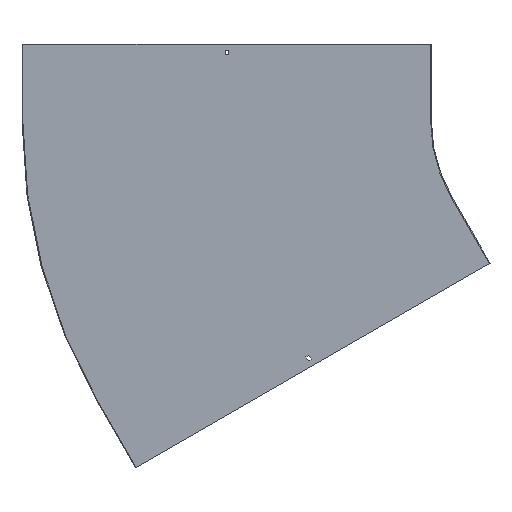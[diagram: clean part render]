
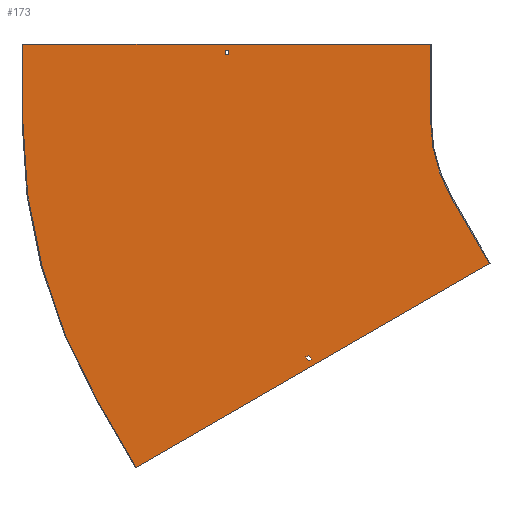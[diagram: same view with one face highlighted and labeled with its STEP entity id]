
A CAD part, front view. The second image highlights one B-rep face of the part: STEP entity #173.
In plain terms, the highlighted planar face has unit normal (0, -1, 0).
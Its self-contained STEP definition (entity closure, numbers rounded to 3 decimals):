
#5 = ORIENTED_EDGE ( 'NONE', *, *, #177, .F. ) ;
#17 = EDGE_CURVE ( 'NONE', #557, #135, #236, .T. ) ;
#25 = DIRECTION ( 'NONE',  ( -0.5, 0., 0.866 ) ) ;
#28 = VERTEX_POINT ( 'NONE', #859 ) ;
#36 = EDGE_LOOP ( 'NONE', ( #246, #95, #852, #781 ) ) ;
#43 = VERTEX_POINT ( 'NONE', #644 ) ;
#49 = CARTESIAN_POINT ( 'NONE',  ( 0., -1.5, 138. ) ) ;
#50 = VERTEX_POINT ( 'NONE', #392 ) ;
#58 = DIRECTION ( 'NONE',  ( 0., 0., 1. ) ) ;
#63 = CARTESIAN_POINT ( 'NONE',  ( -1100., -1.5, 0. ) ) ;
#71 = CARTESIAN_POINT ( 'NONE',  ( -300., -1.5, 150. ) ) ;
#77 = VECTOR ( 'NONE', #142, 1000. ) ;
#82 = EDGE_CURVE ( 'NONE', #135, #146, #525, .T. ) ;
#92 = CARTESIAN_POINT ( 'NONE',  ( -603.403, -1.5, -348.375 ) ) ;
#95 = ORIENTED_EDGE ( 'NONE', *, *, #747, .F. ) ;
#105 = CARTESIAN_POINT ( 'NONE',  ( -1101.5, -1.5, 150. ) ) ;
#114 = VECTOR ( 'NONE', #808, 1000. ) ;
#115 = DIRECTION ( 'NONE',  ( 1., 0., 0. ) ) ;
#122 = CARTESIAN_POINT ( 'NONE',  ( -259.808, -1.5, -150. ) ) ;
#125 = EDGE_CURVE ( 'NONE', #495, #28, #730, .T. ) ;
#129 = CIRCLE ( 'NONE', #673, 1100. ) ;
#132 = CARTESIAN_POINT ( 'NONE',  ( -696.75, -1.5, 129. ) ) ;
#134 = DIRECTION ( 'NONE',  ( 0.5, 0., -0.866 ) ) ;
#135 = VERTEX_POINT ( 'NONE', #454 ) ;
#138 = ORIENTED_EDGE ( 'NONE', *, *, #489, .F. ) ;
#140 = VECTOR ( 'NONE', #248, 1000. ) ;
#142 = DIRECTION ( 'NONE',  ( 0., 0., -1. ) ) ;
#146 = VERTEX_POINT ( 'NONE', #692 ) ;
#173 = ADVANCED_FACE ( 'NONE', ( #443, #559, #769 ), #828, .T. ) ;
#175 = DIRECTION ( 'NONE',  ( 0., 0., -1. ) ) ;
#176 = CARTESIAN_POINT ( 'NONE',  ( -538.903, -1.5, -460.092 ) ) ;
#177 = EDGE_CURVE ( 'NONE', #534, #822, #754, .T. ) ;
#181 = EDGE_CURVE ( 'NONE', #539, #487, #620, .T. ) ;
#185 = DIRECTION ( 'NONE',  ( -1., 0., 0. ) ) ;
#186 = CARTESIAN_POINT ( 'NONE',  ( -183.509, -1.5, -279.154 ) ) ;
#187 = CARTESIAN_POINT ( 'NONE',  ( -544.532, -1.5, -463.342 ) ) ;
#192 = LINE ( 'NONE', #447, #243 ) ;
#208 = LINE ( 'NONE', #71, #860 ) ;
#234 = ORIENTED_EDGE ( 'NONE', *, *, #276, .T. ) ;
#236 = LINE ( 'NONE', #843, #619 ) ;
#243 = VECTOR ( 'NONE', #519, 1000. ) ;
#246 = ORIENTED_EDGE ( 'NONE', *, *, #181, .F. ) ;
#248 = DIRECTION ( 'NONE',  ( -0.5, 0., 0.866 ) ) ;
#274 = ORIENTED_EDGE ( 'NONE', *, *, #548, .F. ) ;
#276 = EDGE_CURVE ( 'NONE', #491, #733, #807, .T. ) ;
#295 = DIRECTION ( 'NONE',  ( 0., -1., 0. ) ) ;
#307 = AXIS2_PLACEMENT_3D ( 'NONE', #801, #862, #661 ) ;
#310 = EDGE_CURVE ( 'NONE', #43, #744, #774, .T. ) ;
#311 = LINE ( 'NONE', #836, #140 ) ;
#342 = VECTOR ( 'NONE', #719, 1000. ) ;
#344 = DIRECTION ( 'NONE',  ( 0., 0., -1. ) ) ;
#352 = VERTEX_POINT ( 'NONE', #408 ) ;
#356 = VECTOR ( 'NONE', #429, 1000. ) ;
#377 = LINE ( 'NONE', #654, #342 ) ;
#387 = VECTOR ( 'NONE', #115, 1000. ) ;
#392 = CARTESIAN_POINT ( 'NONE',  ( -952.628, -1.5, -550. ) ) ;
#394 = ORIENTED_EDGE ( 'NONE', *, *, #672, .F. ) ;
#398 = LINE ( 'NONE', #546, #114 ) ;
#408 = CARTESIAN_POINT ( 'NONE',  ( -300., -1.5, 0. ) ) ;
#429 = DIRECTION ( 'NONE',  ( 1., 0., 0. ) ) ;
#439 = CARTESIAN_POINT ( 'NONE',  ( 0., -1.5, 0. ) ) ;
#443 = FACE_BOUND ( 'NONE', #36, .T. ) ;
#447 = CARTESIAN_POINT ( 'NONE',  ( 64.5, -1.5, -111.717 ) ) ;
#449 = CARTESIAN_POINT ( 'NONE',  ( -609.032, -1.5, -351.625 ) ) ;
#451 = LINE ( 'NONE', #714, #675 ) ;
#454 = CARTESIAN_POINT ( 'NONE',  ( -184.808, -1.5, -279.904 ) ) ;
#481 = EDGE_CURVE ( 'NONE', #146, #50, #311, .T. ) ;
#484 = EDGE_LOOP ( 'NONE', ( #5, #138, #274, #704, #746, #592, #394, #617 ) ) ;
#487 = VERTEX_POINT ( 'NONE', #176 ) ;
#488 = VERTEX_POINT ( 'NONE', #63 ) ;
#489 = EDGE_CURVE ( 'NONE', #488, #534, #377, .T. ) ;
#491 = VERTEX_POINT ( 'NONE', #132 ) ;
#495 = VERTEX_POINT ( 'NONE', #187 ) ;
#510 = CARTESIAN_POINT ( 'NONE',  ( -534.403, -1.5, -467.887 ) ) ;
#517 = CARTESIAN_POINT ( 'NONE',  ( -1100., -1.5, 150. ) ) ;
#519 = DIRECTION ( 'NONE',  ( -0.866, 0., -0.5 ) ) ;
#521 = CARTESIAN_POINT ( 'NONE',  ( 0., -1.5, 129. ) ) ;
#525 = LINE ( 'NONE', #186, #594 ) ;
#534 = VERTEX_POINT ( 'NONE', #517 ) ;
#539 = VERTEX_POINT ( 'NONE', #510 ) ;
#543 = LINE ( 'NONE', #738, #77 ) ;
#545 = EDGE_CURVE ( 'NONE', #487, #495, #192, .T. ) ;
#546 = CARTESIAN_POINT ( 'NONE',  ( 69., -1.5, -119.512 ) ) ;
#548 = EDGE_CURVE ( 'NONE', #50, #488, #129, .T. ) ;
#552 = ORIENTED_EDGE ( 'NONE', *, *, #310, .T. ) ;
#557 = VERTEX_POINT ( 'NONE', #122 ) ;
#559 = FACE_OUTER_BOUND ( 'NONE', #484, .T. ) ;
#562 = CARTESIAN_POINT ( 'NONE',  ( -300., -1.5, 150. ) ) ;
#592 = ORIENTED_EDGE ( 'NONE', *, *, #17, .F. ) ;
#594 = VECTOR ( 'NONE', #790, 1000. ) ;
#608 = EDGE_CURVE ( 'NONE', #733, #43, #451, .T. ) ;
#615 = DIRECTION ( 'NONE',  ( 0.5, 0., -0.866 ) ) ;
#617 = ORIENTED_EDGE ( 'NONE', *, *, #703, .F. ) ;
#619 = VECTOR ( 'NONE', #615, 1000. ) ;
#620 = LINE ( 'NONE', #92, #691 ) ;
#644 = CARTESIAN_POINT ( 'NONE',  ( -703.25, -1.5, 138. ) ) ;
#651 = CARTESIAN_POINT ( 'NONE',  ( 0., -1.5, 0. ) ) ;
#654 = CARTESIAN_POINT ( 'NONE',  ( -1100., -1.5, 0. ) ) ;
#661 = DIRECTION ( 'NONE',  ( 0., 0., -1. ) ) ;
#672 = EDGE_CURVE ( 'NONE', #352, #557, #833, .T. ) ;
#673 = AXIS2_PLACEMENT_3D ( 'NONE', #651, #849, #708 ) ;
#675 = VECTOR ( 'NONE', #58, 1000. ) ;
#689 = EDGE_LOOP ( 'NONE', ( #552, #786, #234, #798 ) ) ;
#691 = VECTOR ( 'NONE', #25, 1000. ) ;
#692 = CARTESIAN_POINT ( 'NONE',  ( -877.628, -1.5, -679.904 ) ) ;
#703 = EDGE_CURVE ( 'NONE', #822, #352, #208, .T. ) ;
#704 = ORIENTED_EDGE ( 'NONE', *, *, #481, .F. ) ;
#708 = DIRECTION ( 'NONE',  ( 0., 0., -1. ) ) ;
#709 = EDGE_CURVE ( 'NONE', #744, #491, #543, .T. ) ;
#711 = VECTOR ( 'NONE', #185, 1000. ) ;
#714 = CARTESIAN_POINT ( 'NONE',  ( -703.25, -1.5, 0. ) ) ;
#719 = DIRECTION ( 'NONE',  ( 0., 0., 1. ) ) ;
#730 = LINE ( 'NONE', #449, #775 ) ;
#733 = VERTEX_POINT ( 'NONE', #806 ) ;
#738 = CARTESIAN_POINT ( 'NONE',  ( -696.75, -1.5, 0. ) ) ;
#741 = CARTESIAN_POINT ( 'NONE',  ( -696.75, -1.5, 138. ) ) ;
#744 = VERTEX_POINT ( 'NONE', #741 ) ;
#746 = ORIENTED_EDGE ( 'NONE', *, *, #82, .F. ) ;
#747 = EDGE_CURVE ( 'NONE', #28, #539, #398, .T. ) ;
#754 = LINE ( 'NONE', #105, #356 ) ;
#769 = FACE_BOUND ( 'NONE', #689, .T. ) ;
#774 = LINE ( 'NONE', #49, #387 ) ;
#775 = VECTOR ( 'NONE', #134, 1000. ) ;
#781 = ORIENTED_EDGE ( 'NONE', *, *, #545, .F. ) ;
#786 = ORIENTED_EDGE ( 'NONE', *, *, #709, .T. ) ;
#790 = DIRECTION ( 'NONE',  ( -0.866, 0., -0.5 ) ) ;
#798 = ORIENTED_EDGE ( 'NONE', *, *, #608, .T. ) ;
#801 = CARTESIAN_POINT ( 'NONE',  ( 0., -1.5, 0. ) ) ;
#806 = CARTESIAN_POINT ( 'NONE',  ( -703.25, -1.5, 129. ) ) ;
#807 = LINE ( 'NONE', #521, #711 ) ;
#808 = DIRECTION ( 'NONE',  ( 0.866, 0., 0.5 ) ) ;
#814 = AXIS2_PLACEMENT_3D ( 'NONE', #439, #295, #175 ) ;
#822 = VERTEX_POINT ( 'NONE', #562 ) ;
#828 = PLANE ( 'NONE',  #814 ) ;
#833 = CIRCLE ( 'NONE', #307, 300. ) ;
#836 = CARTESIAN_POINT ( 'NONE',  ( -877.628, -1.5, -679.904 ) ) ;
#843 = CARTESIAN_POINT ( 'NONE',  ( -259.808, -1.5, -150. ) ) ;
#849 = DIRECTION ( 'NONE',  ( 0., 1., 0. ) ) ;
#852 = ORIENTED_EDGE ( 'NONE', *, *, #125, .F. ) ;
#859 = CARTESIAN_POINT ( 'NONE',  ( -540.032, -1.5, -471.137 ) ) ;
#860 = VECTOR ( 'NONE', #344, 1000. ) ;
#862 = DIRECTION ( 'NONE',  ( 0., -1., 0. ) ) ;
